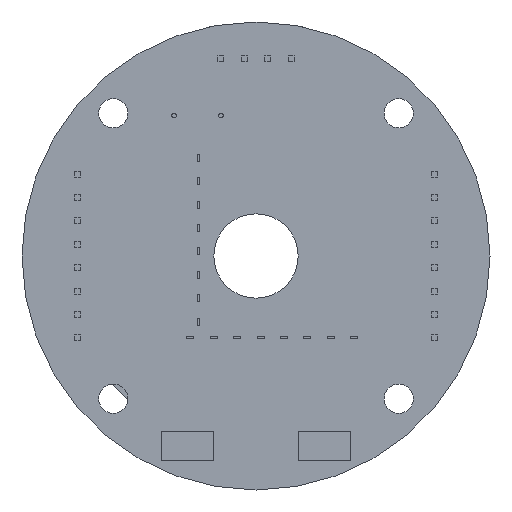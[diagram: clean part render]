
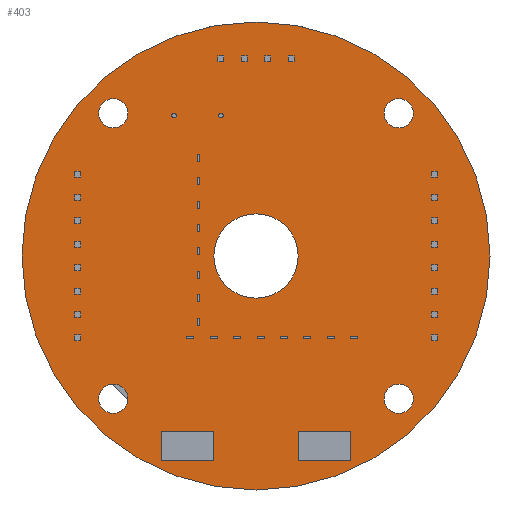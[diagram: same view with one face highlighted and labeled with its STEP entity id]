
A CAD part, front view. The second image highlights one B-rep face of the part: STEP entity #403.
In plain terms, the highlighted planar face has unit normal (0, -1, 0).
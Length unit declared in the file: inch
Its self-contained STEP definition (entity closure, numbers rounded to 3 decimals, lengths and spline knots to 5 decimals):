
#2=CARTESIAN_POINT('',(0.,0.,0.));
#3=DIRECTION('',(0.,1.,0.));
#4=DIRECTION('',(1.,0.,0.));
#5=AXIS2_PLACEMENT_3D('',#2,#3,#4);
#7=CARTESIAN_POINT('',(0.,0.,0.));
#8=DIRECTION('',(0.,1.,0.));
#9=DIRECTION('',(-1.,0.,0.));
#10=AXIS2_PLACEMENT_3D('',#7,#8,#9);
#12=CARTESIAN_POINT('',(-0.61,0.,0.61));
#13=DIRECTION('',(0.,-1.,0.));
#14=DIRECTION('',(1.,0.,0.));
#15=AXIS2_PLACEMENT_3D('',#12,#13,#14);
#17=CARTESIAN_POINT('',(-0.61,0.,0.61));
#18=DIRECTION('',(0.,-1.,0.));
#19=DIRECTION('',(-1.,0.,0.));
#20=AXIS2_PLACEMENT_3D('',#17,#18,#19);
#22=CARTESIAN_POINT('',(-0.61,0.,-0.61));
#23=DIRECTION('',(0.,-1.,0.));
#24=DIRECTION('',(1.,0.,0.));
#25=AXIS2_PLACEMENT_3D('',#22,#23,#24);
#27=CARTESIAN_POINT('',(-0.61,0.,-0.61));
#28=DIRECTION('',(0.,-1.,0.));
#29=DIRECTION('',(-1.,0.,0.));
#30=AXIS2_PLACEMENT_3D('',#27,#28,#29);
#32=CARTESIAN_POINT('',(0.61,0.,0.61));
#33=DIRECTION('',(0.,-1.,0.));
#34=DIRECTION('',(1.,0.,0.));
#35=AXIS2_PLACEMENT_3D('',#32,#33,#34);
#37=CARTESIAN_POINT('',(0.61,0.,0.61));
#38=DIRECTION('',(0.,-1.,0.));
#39=DIRECTION('',(-1.,0.,0.));
#40=AXIS2_PLACEMENT_3D('',#37,#38,#39);
#42=CARTESIAN_POINT('',(0.61,0.,-0.61));
#43=DIRECTION('',(0.,-1.,0.));
#44=DIRECTION('',(1.,0.,0.));
#45=AXIS2_PLACEMENT_3D('',#42,#43,#44);
#47=CARTESIAN_POINT('',(0.61,0.,-0.61));
#48=DIRECTION('',(0.,-1.,0.));
#49=DIRECTION('',(-1.,0.,0.));
#50=AXIS2_PLACEMENT_3D('',#47,#48,#49);
#52=CARTESIAN_POINT('',(0.,0.,0.));
#53=DIRECTION('',(0.,-1.,0.));
#54=DIRECTION('',(1.,0.,0.));
#55=AXIS2_PLACEMENT_3D('',#52,#53,#54);
#57=CARTESIAN_POINT('',(0.,0.,0.));
#58=DIRECTION('',(0.,-1.,0.));
#59=DIRECTION('',(-1.,0.,0.));
#60=AXIS2_PLACEMENT_3D('',#57,#58,#59);
#282=CARTESIAN_POINT('',(1.,0.,0.));
#283=CARTESIAN_POINT('',(-1.,0.,0.));
#284=VERTEX_POINT('',#282);
#285=VERTEX_POINT('',#283);
#290=CARTESIAN_POINT('',(-0.5475,0.,0.61));
#291=CARTESIAN_POINT('',(-0.6725,0.,0.61));
#292=VERTEX_POINT('',#290);
#293=VERTEX_POINT('',#291);
#294=CARTESIAN_POINT('',(-0.5475,0.,-0.61));
#295=CARTESIAN_POINT('',(-0.6725,0.,-0.61));
#296=VERTEX_POINT('',#294);
#297=VERTEX_POINT('',#295);
#298=CARTESIAN_POINT('',(0.6725,0.,0.61));
#299=CARTESIAN_POINT('',(0.5475,0.,0.61));
#300=VERTEX_POINT('',#298);
#301=VERTEX_POINT('',#299);
#302=CARTESIAN_POINT('',(0.6725,0.,-0.61));
#303=CARTESIAN_POINT('',(0.5475,0.,-0.61));
#304=VERTEX_POINT('',#302);
#305=VERTEX_POINT('',#303);
#354=CARTESIAN_POINT('',(0.18,0.,0.));
#355=CARTESIAN_POINT('',(-0.18,0.,0.));
#356=VERTEX_POINT('',#354);
#357=VERTEX_POINT('',#355);
#362=CARTESIAN_POINT('',(0.,0.,0.));
#363=DIRECTION('',(0.,1.,0.));
#364=DIRECTION('',(1.,0.,0.));
#365=AXIS2_PLACEMENT_3D('',#362,#363,#364);
#366=PLANE('',#365);
#368=ORIENTED_EDGE('',*,*,#367,.T.);
#370=ORIENTED_EDGE('',*,*,#369,.T.);
#371=EDGE_LOOP('',(#368,#370));
#372=FACE_OUTER_BOUND('',#371,.F.);
#374=ORIENTED_EDGE('',*,*,#373,.T.);
#376=ORIENTED_EDGE('',*,*,#375,.T.);
#377=EDGE_LOOP('',(#374,#376));
#378=FACE_BOUND('',#377,.F.);
#380=ORIENTED_EDGE('',*,*,#379,.T.);
#382=ORIENTED_EDGE('',*,*,#381,.T.);
#383=EDGE_LOOP('',(#380,#382));
#384=FACE_BOUND('',#383,.F.);
#386=ORIENTED_EDGE('',*,*,#385,.T.);
#388=ORIENTED_EDGE('',*,*,#387,.T.);
#389=EDGE_LOOP('',(#386,#388));
#390=FACE_BOUND('',#389,.F.);
#392=ORIENTED_EDGE('',*,*,#391,.T.);
#394=ORIENTED_EDGE('',*,*,#393,.T.);
#395=EDGE_LOOP('',(#392,#394));
#396=FACE_BOUND('',#395,.F.);
#398=ORIENTED_EDGE('',*,*,#397,.T.);
#400=ORIENTED_EDGE('',*,*,#399,.T.);
#401=EDGE_LOOP('',(#398,#400));
#402=FACE_BOUND('',#401,.F.);
#403=ADVANCED_FACE('',(#372,#378,#384,#390,#396,#402),#366,.F.);
#6=CIRCLE('',#5,1.);
#11=CIRCLE('',#10,1.);
#16=CIRCLE('',#15,0.0625);
#21=CIRCLE('',#20,0.0625);
#26=CIRCLE('',#25,0.0625);
#31=CIRCLE('',#30,0.0625);
#36=CIRCLE('',#35,0.0625);
#41=CIRCLE('',#40,0.0625);
#46=CIRCLE('',#45,0.0625);
#51=CIRCLE('',#50,0.0625);
#56=CIRCLE('',#55,0.18);
#61=CIRCLE('',#60,0.18);
#367=EDGE_CURVE('',#284,#285,#6,.T.);
#369=EDGE_CURVE('',#285,#284,#11,.T.);
#373=EDGE_CURVE('',#292,#293,#16,.T.);
#375=EDGE_CURVE('',#293,#292,#21,.T.);
#379=EDGE_CURVE('',#296,#297,#26,.T.);
#381=EDGE_CURVE('',#297,#296,#31,.T.);
#385=EDGE_CURVE('',#300,#301,#36,.T.);
#387=EDGE_CURVE('',#301,#300,#41,.T.);
#391=EDGE_CURVE('',#304,#305,#46,.T.);
#393=EDGE_CURVE('',#305,#304,#51,.T.);
#397=EDGE_CURVE('',#356,#357,#56,.T.);
#399=EDGE_CURVE('',#357,#356,#61,.T.);
